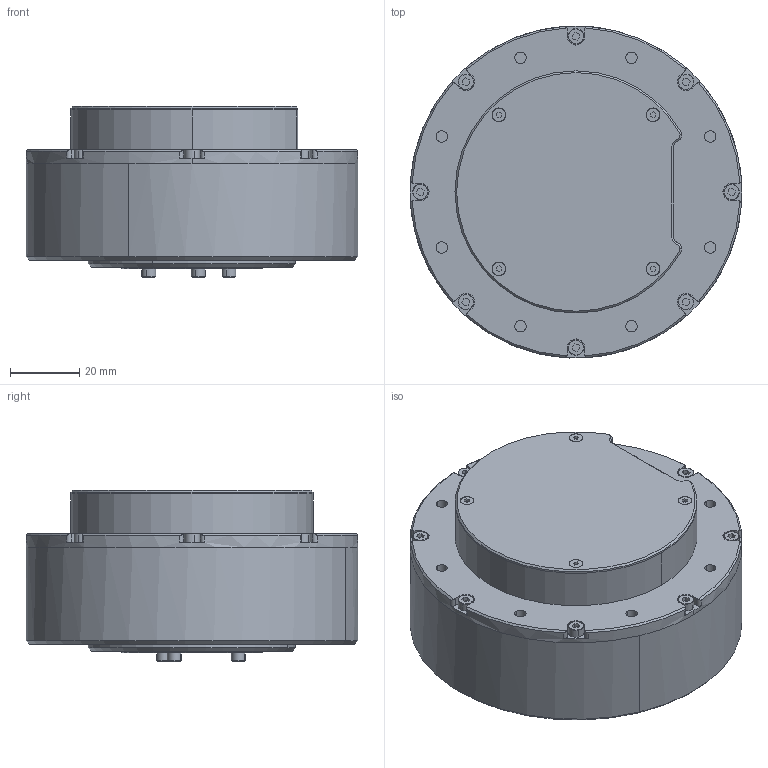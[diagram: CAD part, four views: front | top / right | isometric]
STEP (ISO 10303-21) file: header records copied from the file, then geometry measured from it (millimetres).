
FILE_DESCRIPTION (( 'STEP AP214' ), '1' );
FILE_NAME ('MG8015E-i9.STEP', '2023-08-22T14:03:52', ( 'zhang_jianheng@outlook.com' ), ( 'HP' ), 'SwSTEP 2.0', 'SolidWorks 2020', '' );
FILE_SCHEMA (( 'AUTOMOTIVE_DESIGN' ));
Length unit declared in the file: millimetre
Products named in the file (1): MG8015E-i9
Bounding box: 95.97 x 96 x 49.5 mm (x, y, z)
Volume: 248190.6 mm3; surface area: 45671.2 mm2
Topology: 4 solids, 4 shells, 1246 faces, 3277 edges, 2140 vertices
Faces by surface type: plane 749, cylinder 384, cone 60, bspline 33, torus 20
Entity records: 54952 total; most frequent: CARTESIAN_POINT 9910, ORIENTED_EDGE 6554, DIRECTION 6510, EDGE_CURVE 3277, LINE 2228, VECTOR 2228, AXIS2_PLACEMENT_3D 2141, VERTEX_POINT 2140
